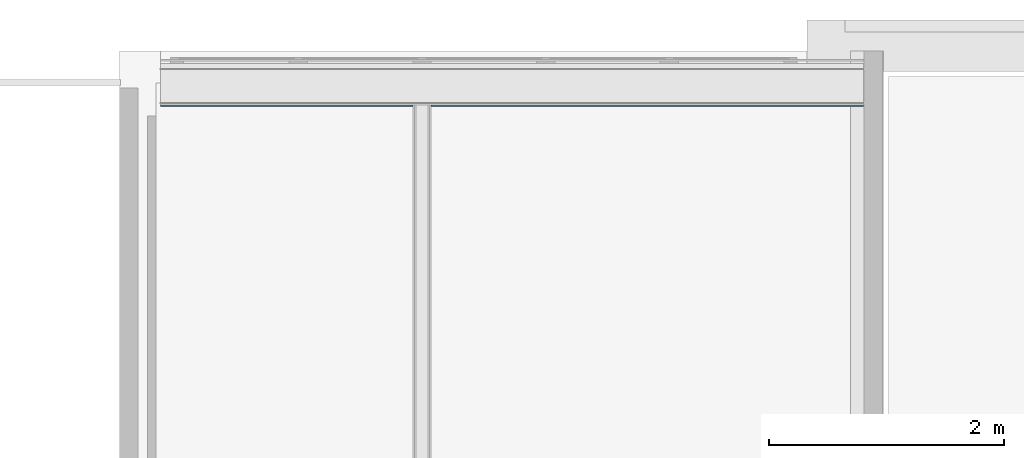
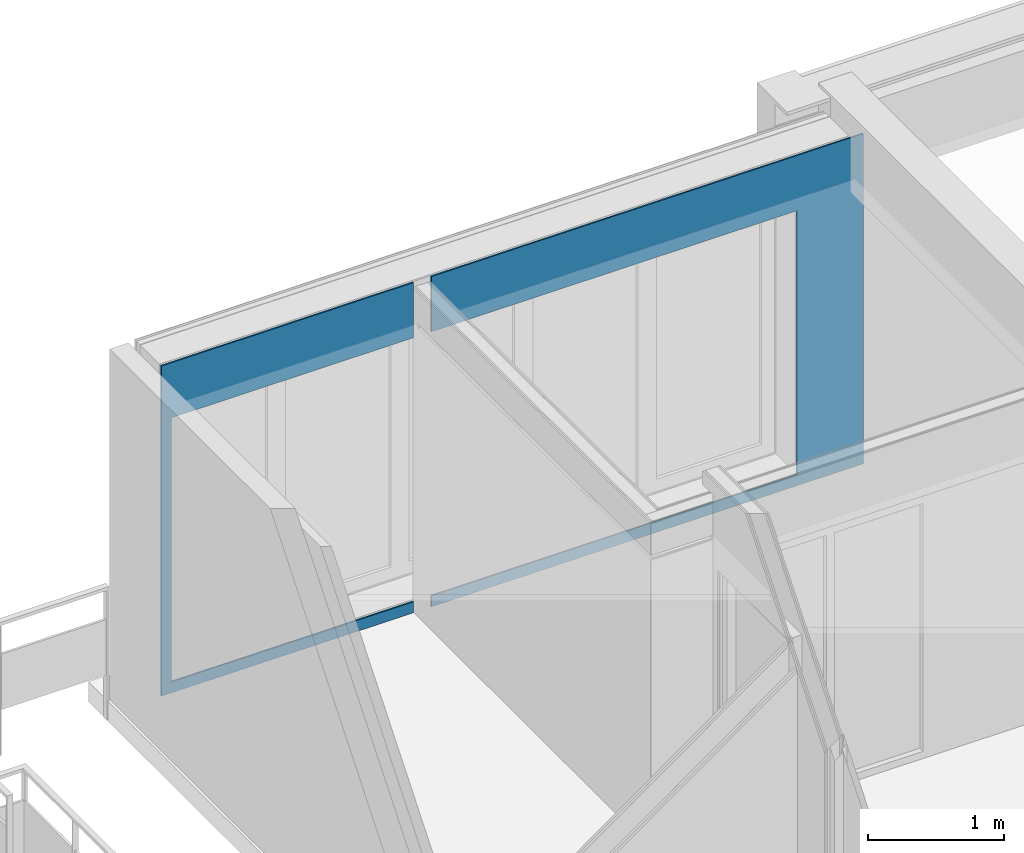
# One storey, part 9 of 13: 1 building element part, 1 opening, 1 element without a shape of its own.
"""IFC2X3 building model written with IfcOpenShell, lengths in millimetres."""

from ifc_helpers import new_model, entity, si_unit, converted_unit, derived_unit, money_unit, direction, frame, origin_with_axes, place, context, subcontext, project, spatial, faceted_brep, material, type_object, element, aggregate, save


model = new_model("IFC2X3")

# Units and contexts
model_context = context("Model", 3, precision=0.01, world=origin_with_axes(), true_north=direction((0.0, 1.0)))
body_context = subcontext(model_context, "Body", "Model", "MODEL_VIEW")
ifc_project = project(units=[si_unit("LENGTHUNIT", "METRE", prefix="MILLI"), si_unit("AREAUNIT", "SQUARE_METRE"), si_unit("VOLUMEUNIT", "CUBIC_METRE"), converted_unit("PLANEANGLEUNIT", "DEGREE", entity("IfcPlaneAngleMeasure", 0.0174532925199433), si_unit("PLANEANGLEUNIT", "RADIAN"), dimensions=[0, 0, 0, 0, 0, 0, 0]), money_unit("EUR"), converted_unit("TIMEUNIT", "Year", entity("IfcTimeMeasure", 31557600.0), si_unit("TIMEUNIT", "SECOND"), dimensions=[0, 0, 1, 0, 0, 0, 0]), si_unit("MASSUNIT", "GRAM", prefix="KILO"), si_unit("THERMODYNAMICTEMPERATUREUNIT", "DEGREE_CELSIUS"), si_unit("LUMINOUSINTENSITYUNIT", "LUMEN"), si_unit("ENERGYUNIT", "JOULE", prefix="MEGA"), derived_unit("THERMALCONDUCTANCEUNIT", [(si_unit("POWERUNIT", "WATT"), 1), (si_unit("LENGTHUNIT", "METRE"), -1), (si_unit("THERMODYNAMICTEMPERATUREUNIT", "KELVIN"), -1)]), derived_unit("SPECIFICHEATCAPACITYUNIT", [(si_unit("ENERGYUNIT", "JOULE"), 1), (si_unit("MASSUNIT", "GRAM", prefix="KILO"), -1), (si_unit("THERMODYNAMICTEMPERATUREUNIT", "KELVIN"), -1)]), derived_unit("MASSDENSITYUNIT", [(si_unit("MASSUNIT", "GRAM", prefix="KILO"), 1), (si_unit("VOLUMEUNIT", "CUBIC_METRE"), -1)])], contexts=[model_context])

# Site, building, storey
site_placement = place(None, origin_with_axes())
site = spatial("IfcSite", under=ifc_project, at=site_placement, Name="<site naam>", CompositionType="ELEMENT")
building_placement = place(site_placement, origin_with_axes())
building = spatial("IfcBuilding", under=site, at=building_placement, Name="<Naam gebouw>", CompositionType="ELEMENT")
storey_placement = place(building_placement, frame((0.0, 0.0, 3188.0), z_axis=(0.0, 0.0, 1.0), x_axis=(1.0, 0.0, 0.0)))
storey = spatial("IfcBuildingStorey", under=building, at=storey_placement, Name="01 1e tussenverdieping", CompositionType="ELEMENT", Elevation=3188.0)

# Wall, opening, building element part
wall_type = type_object("IfcWallType", Name="HSB_285 gevelbeplating Brise Soleil 398", PredefinedType="NOTDEFINED")
wall_placement = place(storey_placement, frame((52175.00000000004, 19527.50019144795, 0.0), z_axis=(0.0, 0.0, 1.0), x_axis=(1.0, 0.0, 0.0)))
wall = element("IfcWall", 1, at=wall_placement, inside=storey, type_object=wall_type, Name="21_Binnenwand_HSB_285")
opening_placement = place(wall_placement, frame((2750.436403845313, 0.0, 102.5), z_axis=(0.0, 0.0, 1.0), x_axis=(1.0, 0.0, 0.0)))
element("IfcOpeningElement", 2, at=opening_placement, cuts=wall, Name="21_BU-B-12_305", context=body_context, shape_type="Brep", body=[
    faceted_brep([(-2664.461586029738, -1.000000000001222, 2377.0), (-2664.461586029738, -1.000000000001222, 0.0), (2664.461586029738, -1.000000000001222, 0.0), (2664.461586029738, -1.000000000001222, 2377.0), (-2664.461586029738, 398.500000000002, 2377.0), (-2664.461586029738, 398.500000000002, 0.0), (2664.461586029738, 398.500000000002, 0.0), (2664.461586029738, 398.500000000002, 2377.0)], [[[0, 1, 2, 3]], [[4, 5, 1, 0]], [[5, 6, 2, 1]], [[6, 7, 3, 2]], [[7, 4, 0, 3]], [[6, 5, 4, 7]]]),
])
ifc_material = material(Name="gipsplaat")
building_element_part_placement = place(wall_placement, origin_with_axes())
building_element_part = element("IfcBuildingElementPart", 3, at=building_element_part_placement, material=ifc_material, Name="gipsplaat", context=body_context, shape_type="Brep", body=[
    faceted_brep([(5979.99999999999, 0.0, 3.000000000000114), (5979.99999999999, 12.49999999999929, 3.000000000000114), (5979.99999999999, 12.49999999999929, 2977.0), (5979.99999999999, 0.0, 2977.0), (2299.372309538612, 12.49999999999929, 3.000000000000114), (2299.372309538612, 0.0, 3.000000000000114), (2299.372309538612, 12.49999999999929, 2977.0), (2299.372309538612, 0.0, 2977.0)], [[[0, 1, 2, 3]], [[4, 1, 0, 5]], [[1, 4, 6, 2]], [[7, 3, 2, 6]], [[5, 0, 3, 7]], [[4, 5, 7, 6]]]),
    faceted_brep([(2149.1800496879, 12.49999999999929, 3.000000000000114), (0.0, 12.49999999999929, 3.000000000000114), (0.0, 12.49999999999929, 2977.0), (2149.372309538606, 12.49999999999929, 2977.0), (2149.372309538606, 12.49999999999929, 0.0), (2149.1800496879, 12.49999999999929, 0.0), (2149.1800496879, 0.0, 3.000000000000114), (0.0, 0.0, 3.000000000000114), (0.0, 0.0, 2977.0), (2149.372309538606, 0.0, 2977.0), (2149.372309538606, 0.0, 0.0), (2149.1800496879, 0.0, 0.0)], [[[0, 1, 2, 3, 4, 5]], [[1, 0, 6, 7]], [[1, 7, 8, 2]], [[9, 3, 2, 8]], [[3, 9, 10, 4]], [[11, 5, 4, 10]], [[0, 5, 11, 6]], [[6, 11, 10, 9, 8, 7]]]),
])
aggregate(wall, [building_element_part])

save(model, "model.ifc")
